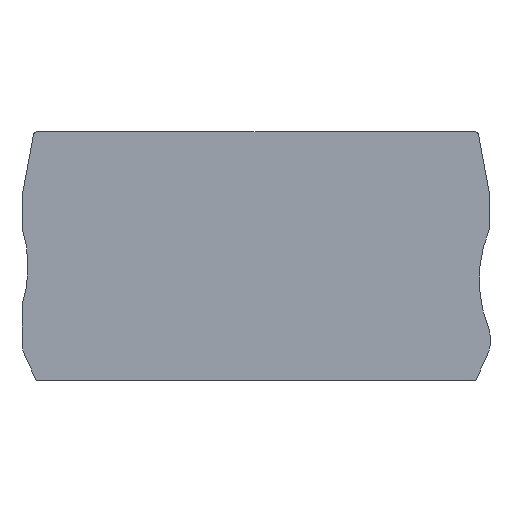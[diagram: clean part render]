
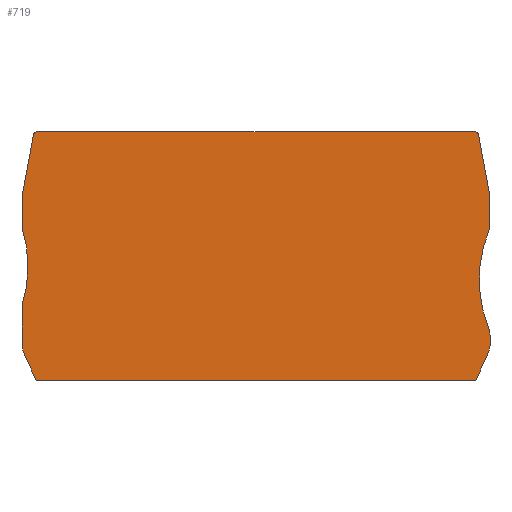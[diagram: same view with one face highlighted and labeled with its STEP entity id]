
A CAD part, left-side view. The second image highlights one B-rep face of the part: STEP entity #719.
In plain terms, the highlighted planar face has unit normal (-1, 0, 0).
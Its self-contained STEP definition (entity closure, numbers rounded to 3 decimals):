
#719=ADVANCED_FACE('',(#1359),#1361,.T.);
#1359=FACE_BOUND('',#1360,.T.);
#1360=EDGE_LOOP('',(#1829,#1830,#1831,#1832,#1833,#1834,#1835,#1836,#1837,#1838,
#1839,#1840,#1841,#1842,#1843,#1844,#1845));
#1361=PLANE('',#1362);
#1362=AXIS2_PLACEMENT_3D('',#1363,#1364,#1365);
#1363=CARTESIAN_POINT('',(-0.423,-2.323,-1.4));
#1364=DIRECTION('',(-1.,0.,0.));
#1365=DIRECTION('',(0.,1.,0.));
#1829=ORIENTED_EDGE('',*,*,#2021,.T.);
#1830=ORIENTED_EDGE('',*,*,#2019,.T.);
#1831=ORIENTED_EDGE('',*,*,#2051,.T.);
#1832=ORIENTED_EDGE('',*,*,#2049,.F.);
#1833=ORIENTED_EDGE('',*,*,#2047,.T.);
#1834=ORIENTED_EDGE('',*,*,#2045,.F.);
#1835=ORIENTED_EDGE('',*,*,#2043,.T.);
#1836=ORIENTED_EDGE('',*,*,#2041,.T.);
#1837=ORIENTED_EDGE('',*,*,#2039,.T.);
#1838=ORIENTED_EDGE('',*,*,#2037,.F.);
#1839=ORIENTED_EDGE('',*,*,#2035,.T.);
#1840=ORIENTED_EDGE('',*,*,#2033,.F.);
#1841=ORIENTED_EDGE('',*,*,#2031,.T.);
#1842=ORIENTED_EDGE('',*,*,#2029,.T.);
#1843=ORIENTED_EDGE('',*,*,#2027,.T.);
#1844=ORIENTED_EDGE('',*,*,#2025,.T.);
#1845=ORIENTED_EDGE('',*,*,#2023,.F.);
#2019=EDGE_CURVE('',#2346,#2344,#2347,.T.);
#2021=EDGE_CURVE('',#2349,#2346,#2350,.T.);
#2023=EDGE_CURVE('',#2349,#2352,#2353,.T.);
#2025=EDGE_CURVE('',#2355,#2352,#2356,.T.);
#2027=EDGE_CURVE('',#2358,#2355,#2359,.T.);
#2029=EDGE_CURVE('',#2361,#2358,#2362,.T.);
#2031=EDGE_CURVE('',#2364,#2361,#2365,.T.);
#2033=EDGE_CURVE('',#2364,#2367,#2368,.T.);
#2035=EDGE_CURVE('',#2370,#2367,#2371,.T.);
#2037=EDGE_CURVE('',#2370,#2373,#2374,.T.);
#2039=EDGE_CURVE('',#2376,#2373,#2377,.T.);
#2041=EDGE_CURVE('',#2379,#2376,#2380,.T.);
#2043=EDGE_CURVE('',#2382,#2379,#2383,.T.);
#2045=EDGE_CURVE('',#2382,#2385,#2386,.T.);
#2047=EDGE_CURVE('',#2388,#2385,#2389,.T.);
#2049=EDGE_CURVE('',#2388,#2391,#2392,.T.);
#2051=EDGE_CURVE('',#2344,#2391,#2394,.T.);
#2344=VERTEX_POINT('',#3112);
#2346=VERTEX_POINT('',#3116);
#2347=LINE('',#3117,#3118);
#2349=VERTEX_POINT('',#3123);
#2350=LINE('',#3124,#3125);
#2352=VERTEX_POINT('',#3130);
#2353=CIRCLE('',#3131,2.);
#2355=VERTEX_POINT('',#3138);
#2356=LINE('',#3139,#3140);
#2358=VERTEX_POINT('',#3145);
#2359=CIRCLE('',#3146,15.);
#2361=VERTEX_POINT('',#3153);
#2362=LINE('',#3154,#3155);
#2364=VERTEX_POINT('',#3160);
#2365=LINE('',#3161,#3162);
#2367=VERTEX_POINT('',#3167);
#2368=CIRCLE('',#3168,0.5);
#2370=VERTEX_POINT('',#3175);
#2371=LINE('',#3176,#3177);
#2373=VERTEX_POINT('',#3182);
#2374=CIRCLE('',#3183,0.5);
#2376=VERTEX_POINT('',#3190);
#2377=LINE('',#3191,#3192);
#2379=VERTEX_POINT('',#3197);
#2380=LINE('',#3198,#3199);
#2382=VERTEX_POINT('',#3204);
#2383=CIRCLE('',#3205,15.);
#2385=VERTEX_POINT('',#3212);
#2386=CIRCLE('',#3213,2.);
#2388=VERTEX_POINT('',#3220);
#2389=LINE('',#3221,#3222);
#2391=VERTEX_POINT('',#3227);
#2392=CIRCLE('',#3228,2.);
#2394=LINE('',#3235,#3236);
#3112=CARTESIAN_POINT('',(-0.423,-27.265,-1.1));
#3116=CARTESIAN_POINT('',(-0.423,23.466,-1.1));
#3117=CARTESIAN_POINT('',(-0.423,23.466,-1.1));
#3118=VECTOR('',#3119,1.);
#3119=DIRECTION('',(0.,-1.,0.));
#3123=CARTESIAN_POINT('',(-0.423,24.923,2.125));
#3124=CARTESIAN_POINT('',(-0.423,24.923,2.125));
#3125=VECTOR('',#3126,1.);
#3126=DIRECTION('',(0.,-0.412,-0.911));
#3130=CARTESIAN_POINT('',(-0.423,25.1,2.948));
#3131=AXIS2_PLACEMENT_3D('',#3132,#3133,#3134);
#3132=CARTESIAN_POINT('',(-0.423,23.1,2.948));
#3133=DIRECTION('',(1.,0.,0.));
#3134=DIRECTION('',(0.,0.911,-0.412));
#3138=CARTESIAN_POINT('',(-0.423,25.1,7.517));
#3139=CARTESIAN_POINT('',(-0.423,25.1,7.517));
#3140=VECTOR('',#3141,1.);
#3141=DIRECTION('',(0.,0.,-1.));
#3145=CARTESIAN_POINT('',(-0.423,25.1,16.517));
#3146=AXIS2_PLACEMENT_3D('',#3147,#3148,#3149);
#3147=CARTESIAN_POINT('',(-0.423,39.409,12.017));
#3148=DIRECTION('',(1.,0.,0.));
#3149=DIRECTION('',(0.,-0.954,0.3));
#3153=CARTESIAN_POINT('',(-0.423,25.1,20.128));
#3154=CARTESIAN_POINT('',(-0.423,25.1,20.128));
#3155=VECTOR('',#3156,1.);
#3156=DIRECTION('',(0.,0.,-1.));
#3160=CARTESIAN_POINT('',(-0.423,23.789,27.191));
#3161=CARTESIAN_POINT('',(-0.423,23.789,27.191));
#3162=VECTOR('',#3163,1.);
#3163=DIRECTION('',(0.,0.183,-0.983));
#3167=CARTESIAN_POINT('',(-0.423,23.297,27.599));
#3168=AXIS2_PLACEMENT_3D('',#3169,#3170,#3171);
#3169=CARTESIAN_POINT('',(-0.423,23.297,27.099));
#3170=DIRECTION('',(1.,0.,0.));
#3171=DIRECTION('',(0.,0.983,0.183));
#3175=CARTESIAN_POINT('',(-0.423,-27.097,27.597));
#3176=CARTESIAN_POINT('',(-0.423,-27.097,27.597));
#3177=VECTOR('',#3178,1.);
#3178=DIRECTION('',(0.,1.,0.));
#3182=CARTESIAN_POINT('',(-0.423,-27.589,27.188));
#3183=AXIS2_PLACEMENT_3D('',#3184,#3185,#3186);
#3184=CARTESIAN_POINT('',(-0.423,-27.097,27.097));
#3185=DIRECTION('',(1.,0.,0.));
#3186=DIRECTION('',(0.,0.,1.));
#3190=CARTESIAN_POINT('',(-0.423,-28.9,20.128));
#3191=CARTESIAN_POINT('',(-0.423,-28.9,20.128));
#3192=VECTOR('',#3193,1.);
#3193=DIRECTION('',(0.,0.183,0.983));
#3197=CARTESIAN_POINT('',(-0.423,-28.9,16.517));
#3198=CARTESIAN_POINT('',(-0.423,-28.9,16.517));
#3199=VECTOR('',#3200,1.);
#3200=DIRECTION('',(0.,0.,1.));
#3204=CARTESIAN_POINT('',(-0.423,-28.752,4.867));
#3205=AXIS2_PLACEMENT_3D('',#3206,#3207,#3208);
#3206=CARTESIAN_POINT('',(-0.423,-42.647,10.517));
#3207=DIRECTION('',(1.,0.,0.));
#3208=DIRECTION('',(0.,0.926,-0.377));
#3212=CARTESIAN_POINT('',(-0.423,-28.9,4.113));
#3213=AXIS2_PLACEMENT_3D('',#3214,#3215,#3216);
#3214=CARTESIAN_POINT('',(-0.423,-26.9,4.113));
#3215=DIRECTION('',(1.,0.,0.));
#3216=DIRECTION('',(0.,-0.926,0.377));
#3220=CARTESIAN_POINT('',(-0.423,-28.9,2.948));
#3221=CARTESIAN_POINT('',(-0.423,-28.9,2.948));
#3222=VECTOR('',#3223,1.);
#3223=DIRECTION('',(0.,0.,1.));
#3227=CARTESIAN_POINT('',(-0.423,-28.722,2.125));
#3228=AXIS2_PLACEMENT_3D('',#3229,#3230,#3231);
#3229=CARTESIAN_POINT('',(-0.423,-26.9,2.948));
#3230=DIRECTION('',(1.,0.,0.));
#3231=DIRECTION('',(0.,-1.,0.));
#3235=CARTESIAN_POINT('',(-0.423,-27.265,-1.1));
#3236=VECTOR('',#3237,1.);
#3237=DIRECTION('',(0.,-0.412,0.911));
